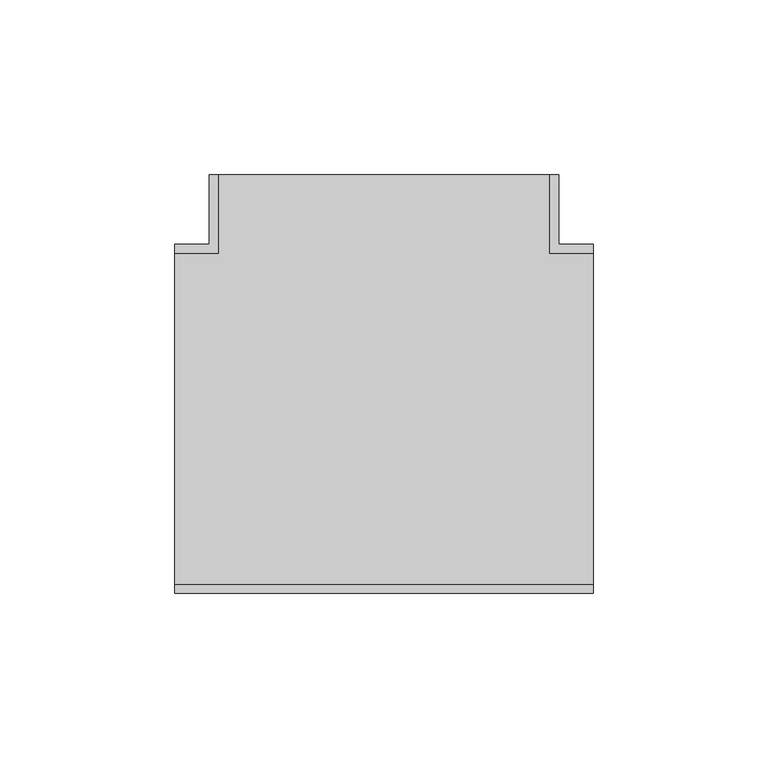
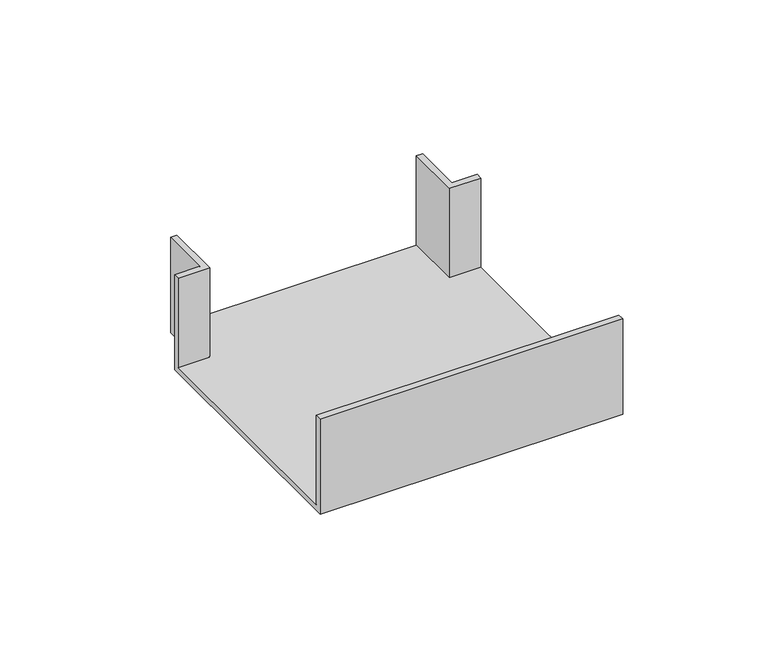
"""IFC4 building model written with IfcOpenShell, lengths in millimetres: cable carrier fitting geometry, КНС_ТройникNTAN_ILC_DKC : Тройник/отвод."""

from ifc_helpers import new_model, si_unit, origin, place, context, project, spatial, faceted_brep, source, transform, mapped, element, save


def cable_carrier_fitting_b5b66641(model_context):
    return source(origin(), model_context, "Body", "Brep", [
        faceted_brep([(60.0, -47.5, -17.5), (60.0, 47.5, -17.5), (47.5, 47.5, -17.5), (47.5, 70.0, -17.5), (-47.5, 70.0, -17.5), (-47.5, 47.5, -17.5), (-60.0, 47.5, -17.5), (-60.0, -47.5, -17.5), (60.0, -50.0, -20.0), (-60.0, -50.0, -20.0), (-60.0, 50.0, -20.0), (-50.0, 50.0, -20.0), (-50.0, 70.0, -20.0), (50.0, 70.0, -20.0), (50.0, 50.0, -20.0), (60.0, 50.0, -20.0), (60.0, 50.0, 20.0), (60.0, 47.5, 20.0), (60.0, -47.5, 20.0), (60.0, -50.0, 20.0), (50.0, 50.0, 20.0), (50.0, 70.0, 20.0), (-50.0, 70.0, 20.0), (-47.5, 70.0, 20.0), (47.5, 70.0, 20.0), (-50.0, 50.0, 20.0), (-60.0, 50.0, 20.0), (-60.0, -50.0, 20.0), (-60.0, -47.5, 20.0), (-60.0, 47.5, 20.0), (47.5, 47.5, 20.0), (-47.5, 47.5, 20.0)], [[[0, 1, 2, 3, 4, 5, 6, 7]], [[8, 9, 10, 11, 12, 13, 14, 15]], [[8, 15, 16, 17, 1, 0, 18, 19]], [[16, 15, 14, 20]], [[20, 14, 13, 21]], [[21, 13, 12, 22, 23, 4, 3, 24]], [[22, 12, 11, 25]], [[25, 11, 10, 26]], [[26, 10, 9, 27, 28, 7, 6, 29]], [[27, 9, 8, 19]], [[20, 21, 24, 30, 17, 16]], [[25, 26, 29, 31, 23, 22]], [[27, 19, 18, 28]], [[31, 29, 6, 5]], [[23, 31, 5, 4]], [[30, 24, 3, 2]], [[17, 30, 2, 1]], [[28, 18, 0, 7]]]),
    ])


if __name__ == "__main__":
    model = new_model("IFC4")
    model_context = context("Model", 3, world=origin())
    ifc_project = project(units=[si_unit("LENGTHUNIT", "METRE", prefix="MILLI")], contexts=[model_context])
    site = spatial("IfcSite", under=ifc_project)
    building = spatial("IfcBuilding", under=site)
    placement = place(None, origin())
    cable_carrier_fitting_shape = cable_carrier_fitting_b5b66641(model_context)
    element("IfcCableCarrierFitting", 1, ObjectType="КНС_ТройникNTAN_ILC_DKC : Тройник/отвод", at=placement, inside=building, context=model_context, shape_type="MappedRepresentation", body=[
        mapped(cable_carrier_fitting_shape, transform((0.0, 0.0, 0.0), x_axis=(1.0, 0.0, 0.0), y_axis=(0.0, 1.0, 0.0), z_axis=(0.0, 0.0, 1.0))),
    ])
    save(model, "model.ifc")
